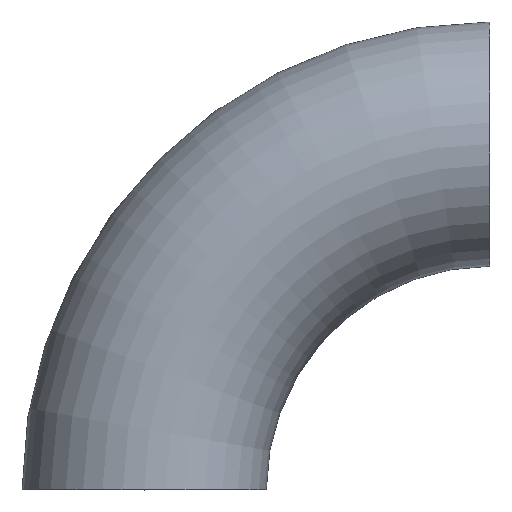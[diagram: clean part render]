
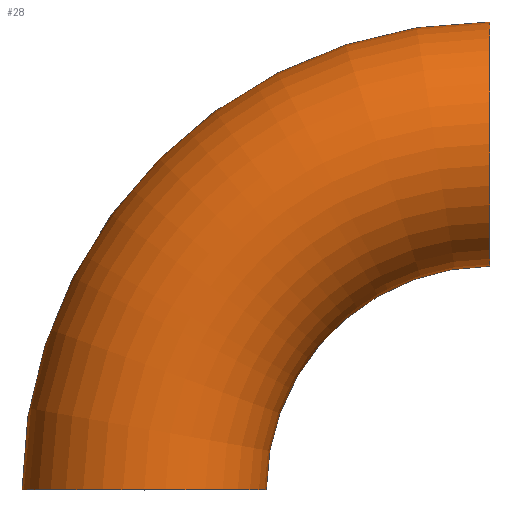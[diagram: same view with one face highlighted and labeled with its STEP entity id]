
A CAD part, top view. The second image highlights one B-rep face of the part: STEP entity #28.
In plain terms, the highlighted toroidal (fillet/blend) face has major radius 150 mm and minor radius 53 mm.
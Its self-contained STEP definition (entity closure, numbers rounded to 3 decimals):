
#2 = VERTEX_POINT ( 'NONE', #25 ) ;
#5 = DIRECTION ( 'NONE',  ( 0., 0., 1. ) ) ;
#9 = DIRECTION ( 'NONE',  ( 1., 0., 0. ) ) ;
#10 = CARTESIAN_POINT ( 'NONE',  ( 150., 0., 0. ) ) ;
#11 = CIRCLE ( 'NONE', #154, 53. ) ;
#20 = CIRCLE ( 'NONE', #21, 203. ) ;
#21 = AXIS2_PLACEMENT_3D ( 'NONE', #55, #72, #158 ) ;
#25 = CARTESIAN_POINT ( 'NONE',  ( -53., 0., 0. ) ) ;
#26 = CARTESIAN_POINT ( 'NONE',  ( 53., 0., 0. ) ) ;
#28 = ADVANCED_FACE ( 'NONE', ( #78 ), #155, .T. ) ;
#29 = DIRECTION ( 'NONE',  ( 0., 1., 0. ) ) ;
#43 = ORIENTED_EDGE ( 'NONE', *, *, #235, .T. ) ;
#45 = VERTEX_POINT ( 'NONE', #26 ) ;
#49 = DIRECTION ( 'NONE',  ( 1., 0., 0. ) ) ;
#51 = ORIENTED_EDGE ( 'NONE', *, *, #68, .F. ) ;
#53 = CARTESIAN_POINT ( 'NONE',  ( 0., 0., 0. ) ) ;
#55 = CARTESIAN_POINT ( 'NONE',  ( 150., 0., 0. ) ) ;
#68 = EDGE_CURVE ( 'NONE', #120, #112, #109, .T. ) ;
#72 = DIRECTION ( 'NONE',  ( 0., 0., 1. ) ) ;
#73 = CIRCLE ( 'NONE', #161, 97. ) ;
#74 = EDGE_CURVE ( 'NONE', #2, #45, #11, .T. ) ;
#78 = FACE_OUTER_BOUND ( 'NONE', #135, .T. ) ;
#81 = CARTESIAN_POINT ( 'NONE',  ( 150., 0., 0. ) ) ;
#109 = CIRCLE ( 'NONE', #166, 53. ) ;
#112 = VERTEX_POINT ( 'NONE', #203 ) ;
#120 = VERTEX_POINT ( 'NONE', #184 ) ;
#135 = EDGE_LOOP ( 'NONE', ( #51, #43, #221, #227 ) ) ;
#154 = AXIS2_PLACEMENT_3D ( 'NONE', #53, #29, #223 ) ;
#155 = TOROIDAL_SURFACE ( 'NONE', #243, 150., 53. ) ;
#158 = DIRECTION ( 'NONE',  ( 1., 0., 0. ) ) ;
#161 = AXIS2_PLACEMENT_3D ( 'NONE', #10, #205, #9 ) ;
#166 = AXIS2_PLACEMENT_3D ( 'NONE', #225, #242, #185 ) ;
#184 = CARTESIAN_POINT ( 'NONE',  ( 150., 203., 0. ) ) ;
#185 = DIRECTION ( 'NONE',  ( 0., 0., 1. ) ) ;
#188 = EDGE_CURVE ( 'NONE', #112, #45, #73, .T. ) ;
#203 = CARTESIAN_POINT ( 'NONE',  ( 150., 97., 0. ) ) ;
#205 = DIRECTION ( 'NONE',  ( 0., 0., 1. ) ) ;
#221 = ORIENTED_EDGE ( 'NONE', *, *, #74, .T. ) ;
#223 = DIRECTION ( 'NONE',  ( 0., 0., 1. ) ) ;
#225 = CARTESIAN_POINT ( 'NONE',  ( 150., 150., 0. ) ) ;
#227 = ORIENTED_EDGE ( 'NONE', *, *, #188, .F. ) ;
#235 = EDGE_CURVE ( 'NONE', #120, #2, #20, .T. ) ;
#242 = DIRECTION ( 'NONE',  ( 1., 0., 0. ) ) ;
#243 = AXIS2_PLACEMENT_3D ( 'NONE', #81, #5, #49 ) ;
